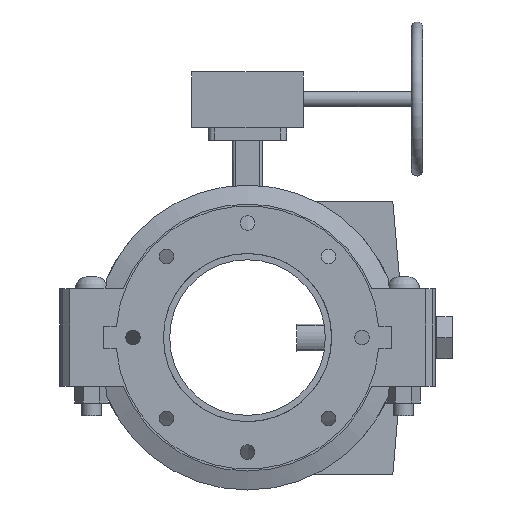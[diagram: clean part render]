
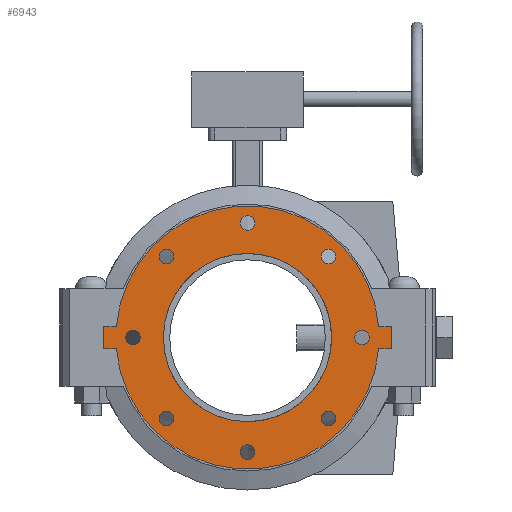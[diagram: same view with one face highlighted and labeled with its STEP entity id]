
A CAD part, front view. The second image highlights one B-rep face of the part: STEP entity #6943.
In plain terms, the highlighted planar face has unit normal (0, -1, 0) as drawn and (0, 0, -1) by its records, which use the part's own axes.
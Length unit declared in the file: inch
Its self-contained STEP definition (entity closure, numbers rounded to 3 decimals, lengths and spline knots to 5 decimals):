
#170=FACE_BOUND('',#898,.T.);
#171=FACE_BOUND('',#899,.T.);
#172=FACE_BOUND('',#900,.T.);
#173=FACE_BOUND('',#901,.T.);
#174=FACE_BOUND('',#902,.T.);
#175=FACE_BOUND('',#903,.T.);
#176=FACE_BOUND('',#904,.T.);
#177=FACE_BOUND('',#905,.T.);
#178=FACE_BOUND('',#906,.T.);
#265=PLANE('',#7556);
#511=FACE_OUTER_BOUND('',#897,.T.);
#897=EDGE_LOOP('',(#4484,#4485,#4486,#4487,#4488,#4489,#4490,#4491));
#898=EDGE_LOOP('',(#4492));
#899=EDGE_LOOP('',(#4493));
#900=EDGE_LOOP('',(#4494));
#901=EDGE_LOOP('',(#4495));
#902=EDGE_LOOP('',(#4496));
#903=EDGE_LOOP('',(#4497));
#904=EDGE_LOOP('',(#4498));
#905=EDGE_LOOP('',(#4499));
#906=EDGE_LOOP('',(#4500,#4501));
#1378=LINE('',#10545,#1893);
#1379=LINE('',#10547,#1894);
#1380=LINE('',#10549,#1895);
#1381=LINE('',#10553,#1896);
#1382=LINE('',#10555,#1897);
#1383=LINE('',#10556,#1898);
#1893=VECTOR('',#8409,0.3937);
#1894=VECTOR('',#8410,0.3937);
#1895=VECTOR('',#8411,0.3937);
#1896=VECTOR('',#8414,0.3937);
#1897=VECTOR('',#8415,0.3937);
#1898=VECTOR('',#8416,0.3937);
#2401=CIRCLE('',#7534,0.375);
#2403=CIRCLE('',#7537,0.375);
#2405=CIRCLE('',#7540,0.375);
#2407=CIRCLE('',#7543,0.375);
#2409=CIRCLE('',#7546,0.375);
#2411=CIRCLE('',#7549,0.375);
#2413=CIRCLE('',#7552,0.375);
#2415=CIRCLE('',#7555,0.375);
#2416=CIRCLE('',#7557,6.75);
#2417=CIRCLE('',#7558,6.75);
#2418=CIRCLE('',#7559,4.3125);
#2419=CIRCLE('',#7560,4.3125);
#2800=VERTEX_POINT('',#10495);
#2802=VERTEX_POINT('',#10501);
#2804=VERTEX_POINT('',#10507);
#2806=VERTEX_POINT('',#10513);
#2808=VERTEX_POINT('',#10519);
#2810=VERTEX_POINT('',#10525);
#2812=VERTEX_POINT('',#10531);
#2814=VERTEX_POINT('',#10537);
#2815=VERTEX_POINT('',#10541);
#2816=VERTEX_POINT('',#10542);
#2817=VERTEX_POINT('',#10544);
#2818=VERTEX_POINT('',#10546);
#2819=VERTEX_POINT('',#10548);
#2820=VERTEX_POINT('',#10550);
#2821=VERTEX_POINT('',#10552);
#2822=VERTEX_POINT('',#10554);
#2823=VERTEX_POINT('',#10557);
#2824=VERTEX_POINT('',#10558);
#3472=EDGE_CURVE('',#2800,#2800,#2401,.T.);
#3475=EDGE_CURVE('',#2802,#2802,#2403,.T.);
#3478=EDGE_CURVE('',#2804,#2804,#2405,.T.);
#3481=EDGE_CURVE('',#2806,#2806,#2407,.T.);
#3484=EDGE_CURVE('',#2808,#2808,#2409,.T.);
#3487=EDGE_CURVE('',#2810,#2810,#2411,.T.);
#3490=EDGE_CURVE('',#2812,#2812,#2413,.T.);
#3493=EDGE_CURVE('',#2814,#2814,#2415,.T.);
#3494=EDGE_CURVE('',#2815,#2816,#2416,.T.);
#3495=EDGE_CURVE('',#2816,#2817,#1378,.T.);
#3496=EDGE_CURVE('',#2817,#2818,#1379,.T.);
#3497=EDGE_CURVE('',#2818,#2819,#1380,.T.);
#3498=EDGE_CURVE('',#2819,#2820,#2417,.T.);
#3499=EDGE_CURVE('',#2820,#2821,#1381,.T.);
#3500=EDGE_CURVE('',#2821,#2822,#1382,.T.);
#3501=EDGE_CURVE('',#2822,#2815,#1383,.T.);
#3502=EDGE_CURVE('',#2823,#2824,#2418,.T.);
#3503=EDGE_CURVE('',#2824,#2823,#2419,.T.);
#4484=ORIENTED_EDGE('',*,*,#3494,.T.);
#4485=ORIENTED_EDGE('',*,*,#3495,.T.);
#4486=ORIENTED_EDGE('',*,*,#3496,.T.);
#4487=ORIENTED_EDGE('',*,*,#3497,.T.);
#4488=ORIENTED_EDGE('',*,*,#3498,.T.);
#4489=ORIENTED_EDGE('',*,*,#3499,.T.);
#4490=ORIENTED_EDGE('',*,*,#3500,.T.);
#4491=ORIENTED_EDGE('',*,*,#3501,.T.);
#4492=ORIENTED_EDGE('',*,*,#3472,.T.);
#4493=ORIENTED_EDGE('',*,*,#3475,.T.);
#4494=ORIENTED_EDGE('',*,*,#3478,.T.);
#4495=ORIENTED_EDGE('',*,*,#3481,.T.);
#4496=ORIENTED_EDGE('',*,*,#3484,.T.);
#4497=ORIENTED_EDGE('',*,*,#3487,.T.);
#4498=ORIENTED_EDGE('',*,*,#3490,.T.);
#4499=ORIENTED_EDGE('',*,*,#3493,.T.);
#4500=ORIENTED_EDGE('',*,*,#3502,.T.);
#4501=ORIENTED_EDGE('',*,*,#3503,.T.);
#6943=ADVANCED_FACE('',(#511,#170,#171,#172,#173,#174,#175,#176,#177,#178),
#265,.T.);
#7534=AXIS2_PLACEMENT_3D('',#10497,#8354,#8355);
#7537=AXIS2_PLACEMENT_3D('',#10503,#8361,#8362);
#7540=AXIS2_PLACEMENT_3D('',#10509,#8368,#8369);
#7543=AXIS2_PLACEMENT_3D('',#10515,#8375,#8376);
#7546=AXIS2_PLACEMENT_3D('',#10521,#8382,#8383);
#7549=AXIS2_PLACEMENT_3D('',#10527,#8389,#8390);
#7552=AXIS2_PLACEMENT_3D('',#10533,#8396,#8397);
#7555=AXIS2_PLACEMENT_3D('',#10539,#8403,#8404);
#7556=AXIS2_PLACEMENT_3D('',#10540,#8405,#8406);
#7557=AXIS2_PLACEMENT_3D('',#10543,#8407,#8408);
#7558=AXIS2_PLACEMENT_3D('',#10551,#8412,#8413);
#7559=AXIS2_PLACEMENT_3D('',#10559,#8417,#8418);
#7560=AXIS2_PLACEMENT_3D('',#10560,#8419,#8420);
#8354=DIRECTION('center_axis',(0.,0.,1.));
#8355=DIRECTION('ref_axis',(-0.707,0.707,0.));
#8361=DIRECTION('center_axis',(0.,0.,1.));
#8362=DIRECTION('ref_axis',(0.,1.,0.));
#8368=DIRECTION('center_axis',(0.,0.,1.));
#8369=DIRECTION('ref_axis',(0.707,0.707,0.));
#8375=DIRECTION('center_axis',(0.,0.,1.));
#8376=DIRECTION('ref_axis',(1.,0.,0.));
#8382=DIRECTION('center_axis',(0.,0.,1.));
#8383=DIRECTION('ref_axis',(0.707,-0.707,0.));
#8389=DIRECTION('center_axis',(0.,0.,1.));
#8390=DIRECTION('ref_axis',(0.,-1.,0.));
#8396=DIRECTION('center_axis',(0.,0.,1.));
#8397=DIRECTION('ref_axis',(-0.707,-0.707,0.));
#8403=DIRECTION('center_axis',(0.,0.,1.));
#8404=DIRECTION('ref_axis',(-1.,0.,0.));
#8405=DIRECTION('center_axis',(0.,0.,-1.));
#8406=DIRECTION('ref_axis',(-1.,0.,0.));
#8407=DIRECTION('center_axis',(0.,0.,-1.));
#8408=DIRECTION('ref_axis',(-1.,0.,0.));
#8409=DIRECTION('',(0.,1.,0.));
#8410=DIRECTION('',(1.,0.,0.));
#8411=DIRECTION('',(0.,-1.,0.));
#8412=DIRECTION('center_axis',(0.,0.,-1.));
#8413=DIRECTION('ref_axis',(-1.,0.,0.));
#8414=DIRECTION('',(0.,-1.,0.));
#8415=DIRECTION('',(-1.,0.,0.));
#8416=DIRECTION('',(0.,1.,0.));
#8417=DIRECTION('center_axis',(0.,0.,1.));
#8418=DIRECTION('ref_axis',(-1.,0.,0.));
#8419=DIRECTION('center_axis',(0.,0.,1.));
#8420=DIRECTION('ref_axis',(-1.,0.,0.));
#10495=CARTESIAN_POINT('',(-3.88909,3.88909,-0.565));
#10497=CARTESIAN_POINT('Origin',(-4.15425,4.15425,-0.565));
#10501=CARTESIAN_POINT('',(0.,5.5,-0.565));
#10503=CARTESIAN_POINT('Origin',(0.,5.875,-0.565));
#10507=CARTESIAN_POINT('',(3.88909,3.88909,-0.565));
#10509=CARTESIAN_POINT('Origin',(4.15425,4.15425,-0.565));
#10513=CARTESIAN_POINT('',(5.5,0.,-0.565));
#10515=CARTESIAN_POINT('Origin',(5.875,0.,-0.565));
#10519=CARTESIAN_POINT('',(3.88909,-3.88909,-0.565));
#10521=CARTESIAN_POINT('Origin',(4.15425,-4.15425,-0.565));
#10525=CARTESIAN_POINT('',(0.,-5.5,-0.565));
#10527=CARTESIAN_POINT('Origin',(0.,-5.875,-0.565));
#10531=CARTESIAN_POINT('',(-3.88909,-3.88909,-0.565));
#10533=CARTESIAN_POINT('Origin',(-4.15425,-4.15425,-0.565));
#10537=CARTESIAN_POINT('',(-5.5,0.,-0.565));
#10539=CARTESIAN_POINT('Origin',(-5.875,0.,-0.565));
#10540=CARTESIAN_POINT('Origin',(0.,0.,-0.565));
#10541=CARTESIAN_POINT('',(-0.565,-6.72631,-0.565));
#10542=CARTESIAN_POINT('',(-0.565,6.72631,-0.565));
#10543=CARTESIAN_POINT('Origin',(0.,0.,-0.565));
#10544=CARTESIAN_POINT('',(-0.565,7.375,-0.565));
#10545=CARTESIAN_POINT('',(-0.565,-7.375,-0.565));
#10546=CARTESIAN_POINT('',(0.565,7.375,-0.565));
#10547=CARTESIAN_POINT('',(-0.565,7.375,-0.565));
#10548=CARTESIAN_POINT('',(0.565,6.72631,-0.565));
#10549=CARTESIAN_POINT('',(0.565,7.375,-0.565));
#10550=CARTESIAN_POINT('',(0.565,-6.72631,-0.565));
#10551=CARTESIAN_POINT('Origin',(0.,0.,-0.565));
#10552=CARTESIAN_POINT('',(0.565,-7.375,-0.565));
#10553=CARTESIAN_POINT('',(0.565,7.375,-0.565));
#10554=CARTESIAN_POINT('',(-0.565,-7.375,-0.565));
#10555=CARTESIAN_POINT('',(0.565,-7.375,-0.565));
#10556=CARTESIAN_POINT('',(-0.565,-7.375,-0.565));
#10557=CARTESIAN_POINT('',(0.565,4.27533,-0.565));
#10558=CARTESIAN_POINT('',(4.3125,0.,-0.565));
#10559=CARTESIAN_POINT('Origin',(0.,0.,-0.565));
#10560=CARTESIAN_POINT('Origin',(0.,0.,-0.565));
